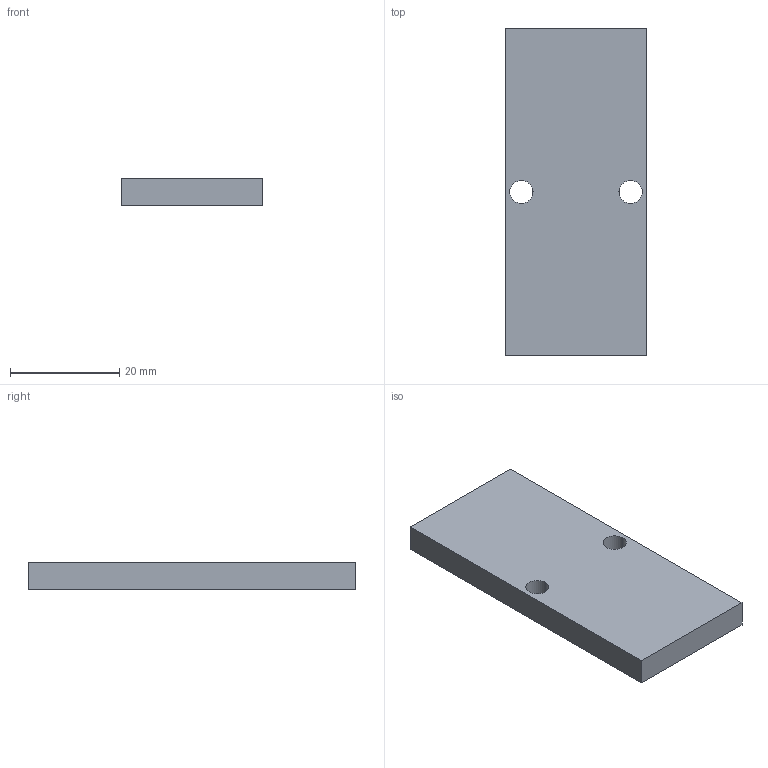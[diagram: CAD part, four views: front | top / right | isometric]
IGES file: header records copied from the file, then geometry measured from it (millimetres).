
Global section: file name: No Iges File Name specified; native system: AutoDesk Inventor R11.0; preprocessor: AutoDesk Inventor Iges Exporter R11.0; author: No Author specified; organization: No Organization specified; date: 20061201.120832; units: millimetre
Bounding box: 26 x 60 x 5 mm (x, y, z)
Volume: 7658.2 mm3; surface area: 4056.8 mm2
Topology: 1 solids, 1 shells, 10 faces, 24 edges, 16 vertices
Faces by surface type: plane 6, bspline 4
